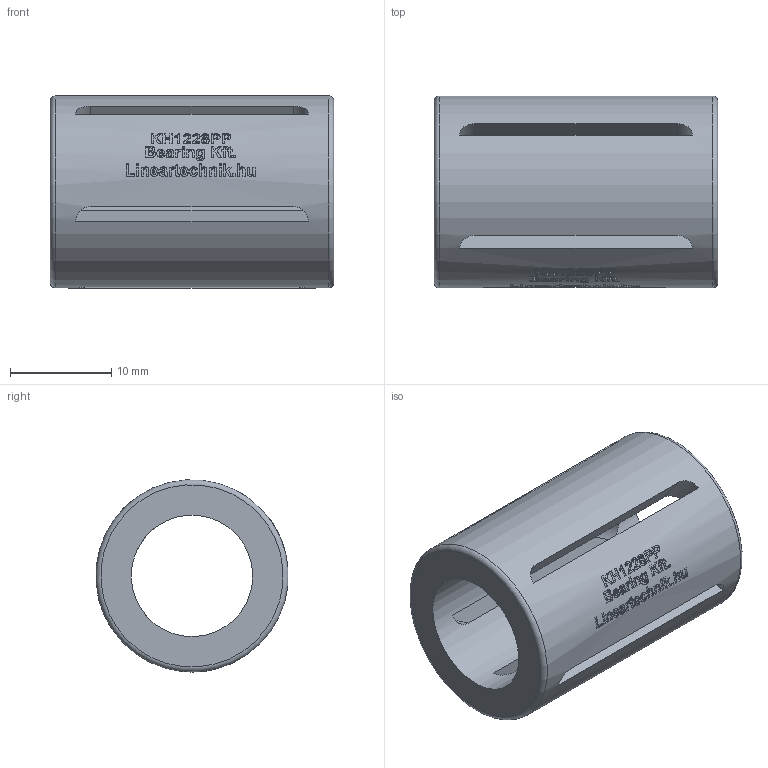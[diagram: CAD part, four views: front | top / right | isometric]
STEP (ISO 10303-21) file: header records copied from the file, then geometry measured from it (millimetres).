
FILE_DESCRIPTION(/* description */ (''),/* implementation_level */ '2;1');
FILE_NAME(/* name */ 'KH1228PP',/* time_stamp */ '2019-07-11T11:31:13+02:00',/* author */ ('VĂ©gh MĂˇtĂ©'),/* organization */ ('Bearing Kft'),/* preprocessor_version */ 'ST-DEVELOPER v16.7',/* originating_system */ 'DEX',/* authorisation */ $);
FILE_SCHEMA (('AUTOMOTIVE_DESIGN {1 0 10303 214 3 1 1}'));
Length unit declared in the file: millimetre
Products named in the file (1): KH1228PP
Bounding box: 28 x 18.95 x 18.98 mm (x, y, z)
Volume: 4173.7 mm3; surface area: 3562.7 mm2
Topology: 1 solids, 1 shells, 341 faces, 865 edges, 575 vertices
Faces by surface type: plane 178, bspline 99, cylinder 62, torus 2
Full cylindrical faces by diameter (mm): 12 x1, 19 x1
Entity records: 15280 total; most frequent: CARTESIAN_POINT 7576, ORIENTED_EDGE 1716, DIRECTION 1283, EDGE_CURVE 858, VERTEX_POINT 575, LINE 477, VECTOR 477, EDGE_LOOP 409
